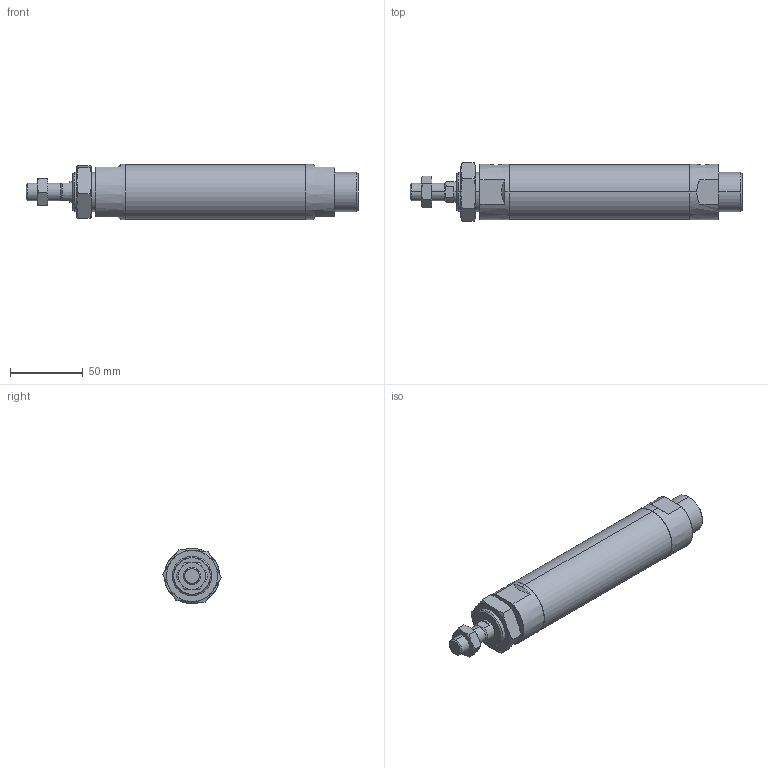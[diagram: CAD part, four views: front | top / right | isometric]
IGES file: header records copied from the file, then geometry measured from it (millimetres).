
Start section: SolidWorks IGES file using analytic representation for surfaces
Global section: file name: C:\Users\Toshiba\Desktop\J#2-32-75-N.IGS; native system: SolidWorks 2014; preprocessor: SolidWorks 2014; author: Toshiba; date: 160308.153519; units: millimetre
Bounding box: 228 x 40.33 x 38 mm (x, y, z)
Surface area: 30881.5 mm2 (no closed solid volume)
Topology: 0 solids, 0 shells, 94 faces, 1652 edges, 1648 vertices
Faces by surface type: bspline 57, revolution 37
